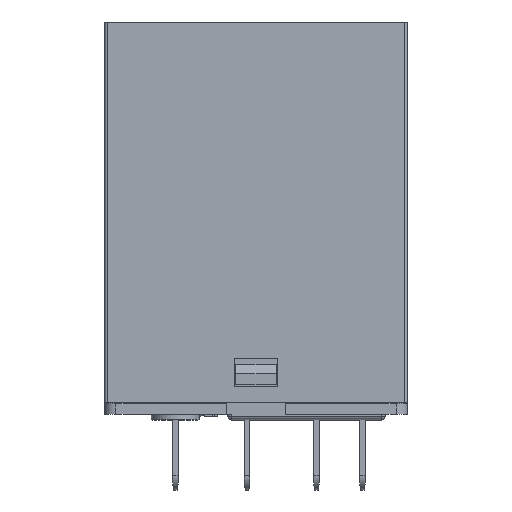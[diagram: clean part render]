
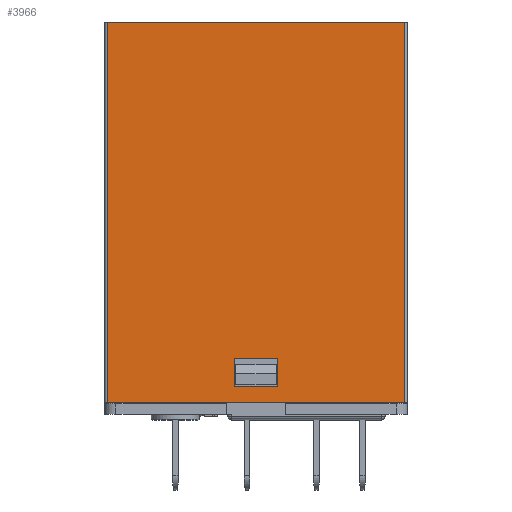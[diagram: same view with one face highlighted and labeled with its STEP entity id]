
A CAD part, top view. The second image highlights one B-rep face of the part: STEP entity #3966.
In plain terms, the highlighted planar face has unit normal (0, 0, 1).
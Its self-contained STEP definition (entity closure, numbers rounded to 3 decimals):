
#307 = VECTOR ( 'NONE', #18661, 1000. ) ;
#937 = VECTOR ( 'NONE', #2265, 1000. ) ;
#988 = VECTOR ( 'NONE', #31002, 1000. ) ;
#1542 = VERTEX_POINT ( 'NONE', #11817 ) ;
#1827 = LINE ( 'NONE', #17670, #988 ) ;
#2108 = ORIENTED_EDGE ( 'NONE', *, *, #6243, .T. ) ;
#2181 = EDGE_CURVE ( 'NONE', #23573, #22160, #22823, .T. ) ;
#2248 = CARTESIAN_POINT ( 'NONE',  ( -13., 34.966, 10.449 ) ) ;
#2265 = DIRECTION ( 'NONE',  ( 1., 0., 0. ) ) ;
#2761 = CARTESIAN_POINT ( 'NONE',  ( 13.6, 34.966, 10.449 ) ) ;
#2873 = LINE ( 'NONE', #27604, #31095 ) ;
#3039 = CARTESIAN_POINT ( 'NONE',  ( 13.8, 34.966, 10.449 ) ) ;
#3536 = VERTEX_POINT ( 'NONE', #16424 ) ;
#3966 = ADVANCED_FACE ( 'NONE', ( #4867, #19812 ), #18918, .F. ) ;
#4332 = CARTESIAN_POINT ( 'NONE',  ( 13.6, 0.966, 10.449 ) ) ;
#4455 = LINE ( 'NONE', #33001, #10665 ) ;
#4546 = LINE ( 'NONE', #21157, #24867 ) ;
#4867 = FACE_BOUND ( 'NONE', #28387, .T. ) ;
#4933 = CARTESIAN_POINT ( 'NONE',  ( 13.8, 0.966, 10.449 ) ) ;
#5683 = DIRECTION ( 'NONE',  ( 0., 0., -1. ) ) ;
#6117 = CARTESIAN_POINT ( 'NONE',  ( 2.25, 2.466, 10.449 ) ) ;
#6243 = EDGE_CURVE ( 'NONE', #1542, #14423, #1827, .T. ) ;
#6419 = AXIS2_PLACEMENT_3D ( 'NONE', #3039, #5683, #24238 ) ;
#6540 = LINE ( 'NONE', #2761, #307 ) ;
#7052 = CARTESIAN_POINT ( 'NONE',  ( -13., 34.966, 10.449 ) ) ;
#10393 = ORIENTED_EDGE ( 'NONE', *, *, #17342, .T. ) ;
#10665 = VECTOR ( 'NONE', #19780, 1000. ) ;
#11252 = CARTESIAN_POINT ( 'NONE',  ( -13., 0.966, 10.449 ) ) ;
#11537 = VECTOR ( 'NONE', #15065, 1000. ) ;
#11716 = DIRECTION ( 'NONE',  ( -1., 0., 0. ) ) ;
#11817 = CARTESIAN_POINT ( 'NONE',  ( -1.65, 2.466, 10.449 ) ) ;
#14159 = ORIENTED_EDGE ( 'NONE', *, *, #14364, .T. ) ;
#14364 = EDGE_CURVE ( 'NONE', #22160, #1542, #2873, .T. ) ;
#14423 = VERTEX_POINT ( 'NONE', #17188 ) ;
#14672 = CARTESIAN_POINT ( 'NONE',  ( 2.25, 4.966, 10.449 ) ) ;
#15065 = DIRECTION ( 'NONE',  ( 0., -1., 0. ) ) ;
#15340 = EDGE_CURVE ( 'NONE', #14423, #23573, #4546, .T. ) ;
#16424 = CARTESIAN_POINT ( 'NONE',  ( 13.6, 34.966, 10.449 ) ) ;
#17188 = CARTESIAN_POINT ( 'NONE',  ( -1.65, 4.966, 10.449 ) ) ;
#17342 = EDGE_CURVE ( 'NONE', #25196, #31159, #25636, .T. ) ;
#17670 = CARTESIAN_POINT ( 'NONE',  ( -1.65, 4.966, 10.449 ) ) ;
#18661 = DIRECTION ( 'NONE',  ( 0., 1., 0. ) ) ;
#18918 = PLANE ( 'NONE',  #6419 ) ;
#19526 = VERTEX_POINT ( 'NONE', #4332 ) ;
#19780 = DIRECTION ( 'NONE',  ( 1., 0., 0. ) ) ;
#19812 = FACE_OUTER_BOUND ( 'NONE', #28501, .T. ) ;
#20950 = EDGE_CURVE ( 'NONE', #31159, #19526, #29184, .T. ) ;
#21157 = CARTESIAN_POINT ( 'NONE',  ( 2.25, 4.966, 10.449 ) ) ;
#21174 = VECTOR ( 'NONE', #23930, 1000. ) ;
#21233 = ORIENTED_EDGE ( 'NONE', *, *, #15340, .T. ) ;
#22160 = VERTEX_POINT ( 'NONE', #6117 ) ;
#22620 = ORIENTED_EDGE ( 'NONE', *, *, #20950, .T. ) ;
#22823 = LINE ( 'NONE', #34407, #21174 ) ;
#23573 = VERTEX_POINT ( 'NONE', #14672 ) ;
#23814 = DIRECTION ( 'NONE',  ( 1., 0., 0. ) ) ;
#23930 = DIRECTION ( 'NONE',  ( 0., -1., 0. ) ) ;
#24238 = DIRECTION ( 'NONE',  ( -1., 0., 0. ) ) ;
#24331 = ORIENTED_EDGE ( 'NONE', *, *, #31713, .T. ) ;
#24867 = VECTOR ( 'NONE', #23814, 1000. ) ;
#25196 = VERTEX_POINT ( 'NONE', #2248 ) ;
#25636 = LINE ( 'NONE', #7052, #11537 ) ;
#27604 = CARTESIAN_POINT ( 'NONE',  ( 2.25, 2.466, 10.449 ) ) ;
#28387 = EDGE_LOOP ( 'NONE', ( #21233, #32757, #14159, #2108 ) ) ;
#28501 = EDGE_LOOP ( 'NONE', ( #22620, #24331, #33447, #10393 ) ) ;
#29184 = LINE ( 'NONE', #4933, #937 ) ;
#31002 = DIRECTION ( 'NONE',  ( 0., 1., 0. ) ) ;
#31095 = VECTOR ( 'NONE', #11716, 1000. ) ;
#31159 = VERTEX_POINT ( 'NONE', #11252 ) ;
#31713 = EDGE_CURVE ( 'NONE', #19526, #3536, #6540, .T. ) ;
#32099 = EDGE_CURVE ( 'NONE', #25196, #3536, #4455, .T. ) ;
#32757 = ORIENTED_EDGE ( 'NONE', *, *, #2181, .T. ) ;
#33001 = CARTESIAN_POINT ( 'NONE',  ( 13.8, 34.966, 10.449 ) ) ;
#33447 = ORIENTED_EDGE ( 'NONE', *, *, #32099, .F. ) ;
#34407 = CARTESIAN_POINT ( 'NONE',  ( 2.25, 4.966, 10.449 ) ) ;
